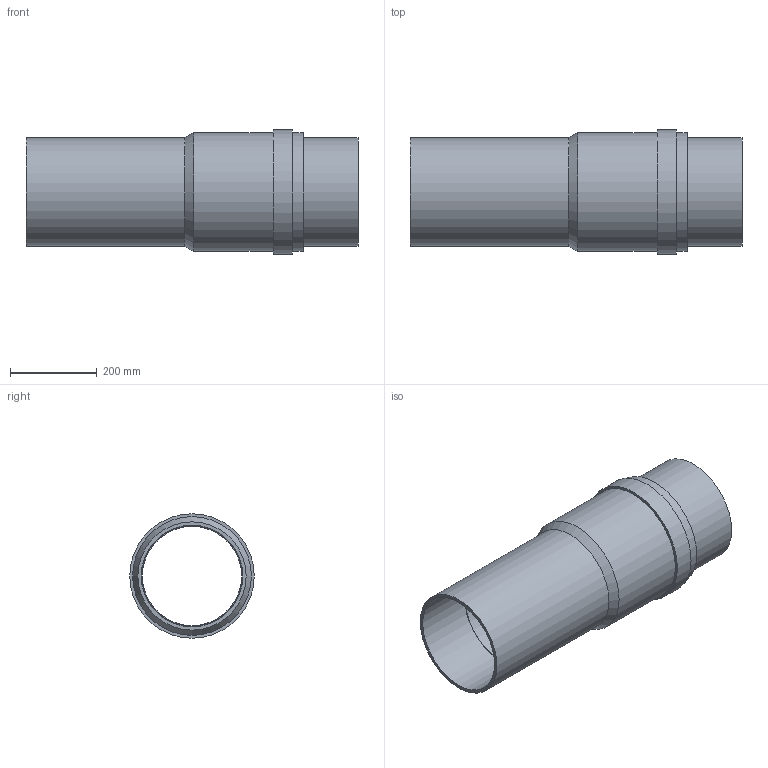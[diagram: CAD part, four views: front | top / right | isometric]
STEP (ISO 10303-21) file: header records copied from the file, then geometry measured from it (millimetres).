
FILE_DESCRIPTION(/* description */ (''),/* implementation_level */ '2;1');
FILE_NAME(/* name */ 'Z:\Geberit\Export\NewStep\371701.stp',/* time_stamp */ '2014-04-02T08:05:39+02:00',/* author */ ('nelson'),/* organization */ (''),/* preprocessor_version */ 'ST-DEVELOPER v15.2',/* originating_system */ 'Autodesk Inventor 2014',/* authorisation */ '');
FILE_SCHEMA (('AUTOMOTIVE_DESIGN { 1 0 10303 214 3 1 1 }'));
Length unit declared in the file: millimetre
Products named in the file (1): 371701
Bounding box: 766.37 x 287.3 x 287.3 mm (x, y, z)
Volume: 7245504.4 mm3; surface area: 2134642.2 mm2
Topology: 2 solids, 2 shells, 33 faces, 60 edges, 35 vertices
Faces by surface type: cylinder 16, plane 8, cone 6, torus 3
Full cylindrical faces by diameter (mm): 229.3 x2, 232.3 x2, 234.4 x2, 237 x2, 250 x2, 252.7 x2, 271.3 x1, 274.1 x2, 287.3 x1
Entity records: 692 total; most frequent: DIRECTION 134, CARTESIAN_POINT 100, AXIS2_PLACEMENT_3D 67, EDGE_LOOP 66, ORIENTED_EDGE 66, FACE_BOUND 37, CIRCLE 33, VERTEX_POINT 33
